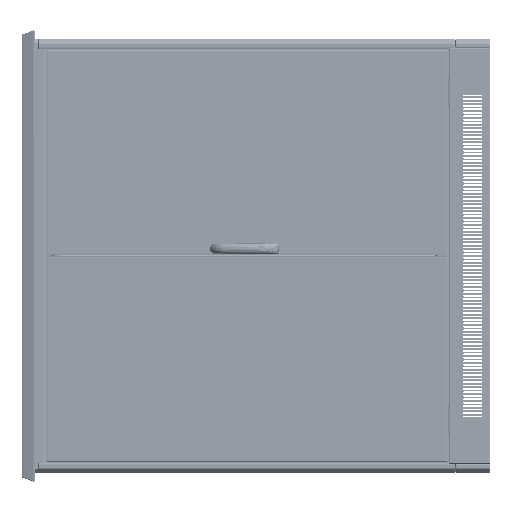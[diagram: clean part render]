
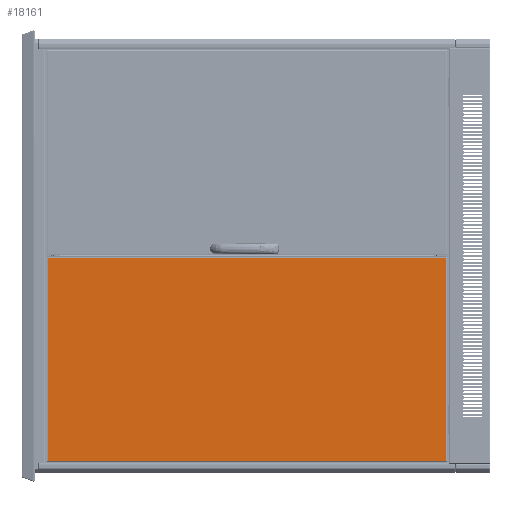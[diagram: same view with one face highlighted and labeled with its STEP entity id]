
A CAD part, left-side view. The second image highlights one B-rep face of the part: STEP entity #18161.
In plain terms, the highlighted planar face has unit normal (-1, 0, 0) as drawn and (0, 0, -1) by its records, which use the part's own axes.
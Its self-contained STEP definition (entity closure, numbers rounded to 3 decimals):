
#2809 = DIRECTION ( 'NONE',  ( -1., 0., 0. ) ) ;
#3773 = ORIENTED_EDGE ( 'NONE', *, *, #131163, .T. ) ;
#7327 = CARTESIAN_POINT ( 'NONE',  ( 294.5, -577., 0. ) ) ;
#16740 = AXIS2_PLACEMENT_3D ( 'NONE', #174057, #142950, #2809 ) ;
#18161 = ADVANCED_FACE ( 'NONE', ( #20822 ), #188051, .T. ) ;
#20822 = FACE_OUTER_BOUND ( 'NONE', #84945, .T. ) ;
#21858 = VERTEX_POINT ( 'NONE', #94205 ) ;
#27159 = ORIENTED_EDGE ( 'NONE', *, *, #180650, .T. ) ;
#30624 = VECTOR ( 'NONE', #176481, 1000. ) ;
#36706 = LINE ( 'NONE', #97770, #44292 ) ;
#38699 = EDGE_CURVE ( 'NONE', #117122, #63644, #149889, .T. ) ;
#44292 = VECTOR ( 'NONE', #158868, 1000. ) ;
#63644 = VERTEX_POINT ( 'NONE', #7327 ) ;
#83349 = CARTESIAN_POINT ( 'NONE',  ( 297.5, 577., 0. ) ) ;
#83386 = CARTESIAN_POINT ( 'NONE',  ( -294.813, 0., 0. ) ) ;
#84945 = EDGE_LOOP ( 'NONE', ( #27159, #3773, #111137, #142659 ) ) ;
#87304 = DIRECTION ( 'NONE',  ( 0., 1., 0. ) ) ;
#94205 = CARTESIAN_POINT ( 'NONE',  ( -294.813, 577., 0. ) ) ;
#97770 = CARTESIAN_POINT ( 'NONE',  ( -295.7, -577., 0. ) ) ;
#111137 = ORIENTED_EDGE ( 'NONE', *, *, #138317, .T. ) ;
#115342 = LINE ( 'NONE', #83349, #30624 ) ;
#117122 = VERTEX_POINT ( 'NONE', #171679 ) ;
#126572 = VECTOR ( 'NONE', #87304, 1000. ) ;
#131163 = EDGE_CURVE ( 'NONE', #162486, #21858, #186616, .T. ) ;
#135888 = CARTESIAN_POINT ( 'NONE',  ( 294.5, -580., 0. ) ) ;
#138317 = EDGE_CURVE ( 'NONE', #21858, #117122, #115342, .T. ) ;
#142659 = ORIENTED_EDGE ( 'NONE', *, *, #38699, .T. ) ;
#142950 = DIRECTION ( 'NONE',  ( 0., 0., -1. ) ) ;
#143093 = CARTESIAN_POINT ( 'NONE',  ( -294.813, -577., 0. ) ) ;
#149889 = LINE ( 'NONE', #135888, #180504 ) ;
#158868 = DIRECTION ( 'NONE',  ( -1., 0., 0. ) ) ;
#162486 = VERTEX_POINT ( 'NONE', #143093 ) ;
#171679 = CARTESIAN_POINT ( 'NONE',  ( 294.5, 577., 0. ) ) ;
#174057 = CARTESIAN_POINT ( 'NONE',  ( 0., 0., 0. ) ) ;
#176481 = DIRECTION ( 'NONE',  ( 1., 0., 0. ) ) ;
#180504 = VECTOR ( 'NONE', #195994, 1000. ) ;
#180650 = EDGE_CURVE ( 'NONE', #63644, #162486, #36706, .T. ) ;
#186616 = LINE ( 'NONE', #83386, #126572 ) ;
#188051 = PLANE ( 'NONE',  #16740 ) ;
#195994 = DIRECTION ( 'NONE',  ( 0., -1., 0. ) ) ;
